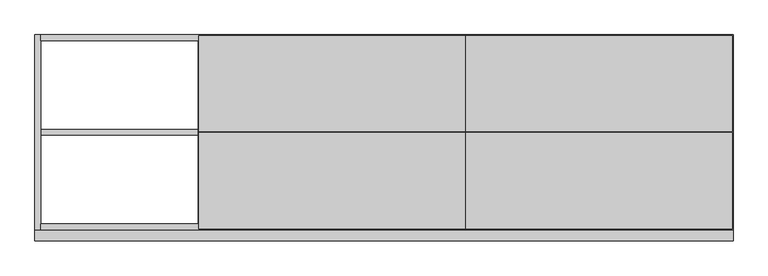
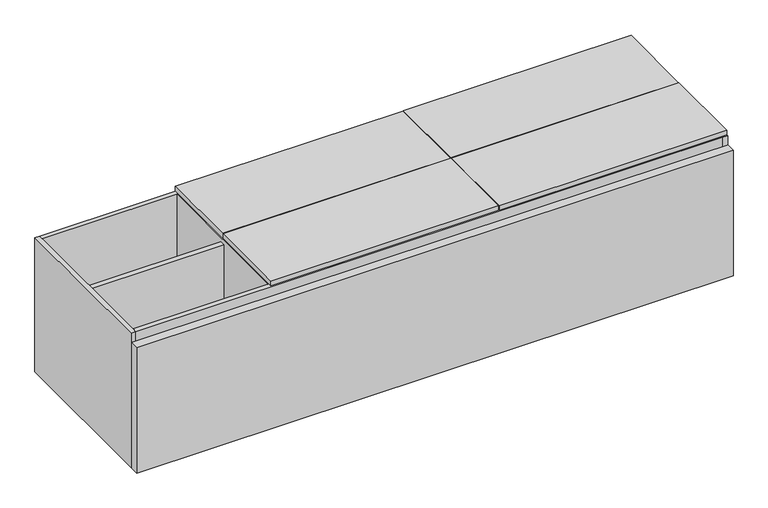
"""IFC4 building model written with IfcOpenShell, lengths in millimetres: proxy geometry, FOUNDATION^ADMIN 2_CREDENZA-PARTS SOLID."""

from ifc_helpers import new_model, si_unit, frame, origin, origin_with_axes, place, context, project, spatial, polyline, outline, extrude, source, transform, mapped, element, save


def generic_models_ff9fff1f(model_context):
    return source(origin(), model_context, "Body", "SweptSolid", [
        extrude(outline(polyline([(1458.515625, 2.38125), (1458.515625, 330.2), (2359.81875, 330.2), (2359.81875, 2.38125), (1458.515625, 2.38125)])), frame((0.0, 0.0, 565.15), z_axis=(0.0, 0.0, 1.0), x_axis=(1.0, 0.0, 0.0)), (0.0, 0.0, 1.0), 19.05),
        extrude(outline(polyline([(19.05, 641.35), (19.05, 660.4), (2343.15, 660.4), (2343.15, 641.35), (19.05, 641.35)])), frame((0.0, 0.0, 19.05), z_axis=(0.0, 0.0, 1.0), x_axis=(1.0, 0.0, 0.0)), (0.0, 0.0, 1.0), 542.925),
        extrude(outline(polyline([(2343.15, 0.0), (2343.15, 660.4), (2362.2, 660.4), (2362.2, 0.0), (2343.15, 0.0)])), origin_with_axes(), (0.0, 0.0, 1.0), 561.975),
        extrude(outline(polyline([(2343.15, 19.05), (2343.15, 0.0), (19.05, 0.0), (19.05, 19.05), (2343.15, 19.05)])), frame((0.0, 0.0, 19.05), z_axis=(0.0, 0.0, 1.0), x_axis=(1.0, 0.0, 0.0)), (0.0, 0.0, 1.0), 542.925),
        extrude(outline(polyline([(2359.81875, 658.01875), (2359.81875, 332.58125), (1458.515625, 332.58125), (1458.515625, 658.01875), (2359.81875, 658.01875)])), frame((0.0, 0.0, 565.15), z_axis=(0.0, 0.0, 1.0), x_axis=(1.0, 0.0, 0.0)), (0.0, 0.0, 1.0), 19.05),
        extrude(outline(polyline([(551.65625, 320.675), (19.84375, 320.675), (19.84375, 339.725), (551.65625, 339.725), (551.65625, 320.675)])), frame((0.0, 0.0, 139.7), z_axis=(0.0, 0.0, 1.0), x_axis=(1.0, 0.0, 0.0)), (0.0, 0.0, 1.0), 406.4),
        extrude(outline(polyline([(1456.134375, 332.58125), (554.83125, 332.58125), (554.83125, 658.01875), (1456.134375, 658.01875), (1456.134375, 332.58125)])), frame((0.0, 0.0, 565.15), z_axis=(0.0, 0.0, 1.0), x_axis=(1.0, 0.0, 0.0)), (0.0, 0.0, 1.0), 19.05),
        extrude(outline(polyline([(571.5, 19.05), (552.45, 19.05), (552.45, 641.35), (571.5, 641.35), (571.5, 19.05)])), frame((0.0, 0.0, 19.05), z_axis=(0.0, 0.0, 1.0), x_axis=(1.0, 0.0, 0.0)), (0.0, 0.0, 1.0), 542.925),
        extrude(outline(polyline([(0.0, 0.0), (0.0, 660.4), (19.05, 660.4), (19.05, 0.0), (0.0, 0.0)])), origin_with_axes(), (0.0, 0.0, 1.0), 561.975),
        extrude(outline(polyline([(554.83125, 2.38125), (554.83125, 330.2), (1456.134375, 330.2), (1456.134375, 2.38125), (554.83125, 2.38125)])), frame((0.0, 0.0, 565.15), z_axis=(0.0, 0.0, 1.0), x_axis=(1.0, 0.0, 0.0)), (0.0, 0.0, 1.0), 19.05),
        extrude(outline(polyline([(0.0, 0.0), (2362.2, 0.0), (2362.2, -38.1), (0.0, -38.1), (0.0, 0.0)])), origin_with_axes(), (0.0, 0.0, 1.0), 523.875),
    ])


if __name__ == "__main__":
    model = new_model("IFC4")
    model_context = context("Model", 3, world=origin())
    ifc_project = project(units=[si_unit("LENGTHUNIT", "METRE", prefix="MILLI")], contexts=[model_context])
    site = spatial("IfcSite", under=ifc_project)
    building = spatial("IfcBuilding", under=site)
    placement = place(None, origin())
    generic_models_shape = generic_models_ff9fff1f(model_context)
    element("IfcBuildingElementProxy", 1, Name="FOUNDATION^ADMIN 2_CREDENZA-PARTS SOLID", ObjectType="FOUNDATION^ADMIN 2_CREDENZA-PARTS SOLID", at=placement, inside=building, context=model_context, shape_type="MappedRepresentation", body=[
        mapped(generic_models_shape, transform((0.0, 0.0, 0.0), x_axis=(1.0, 0.0, 0.0), y_axis=(0.0, 1.0, 0.0), z_axis=(0.0, 0.0, 1.0))),
    ])
    save(model, "model.ifc")
